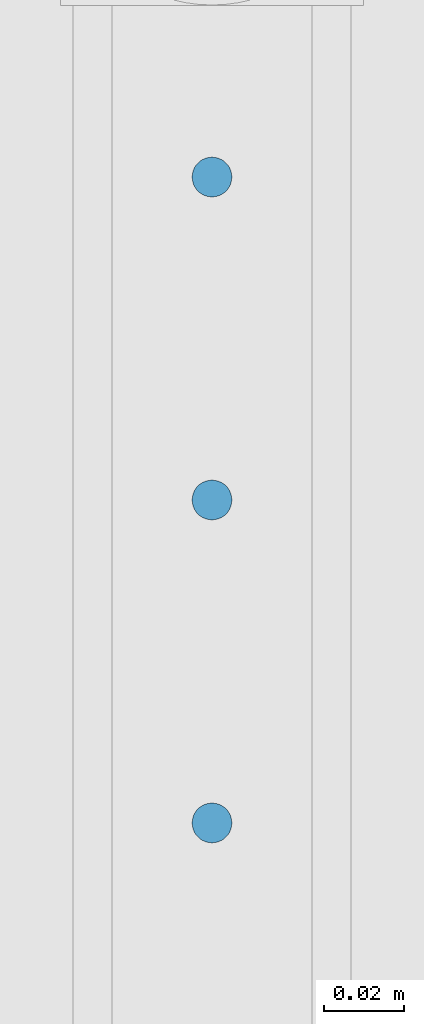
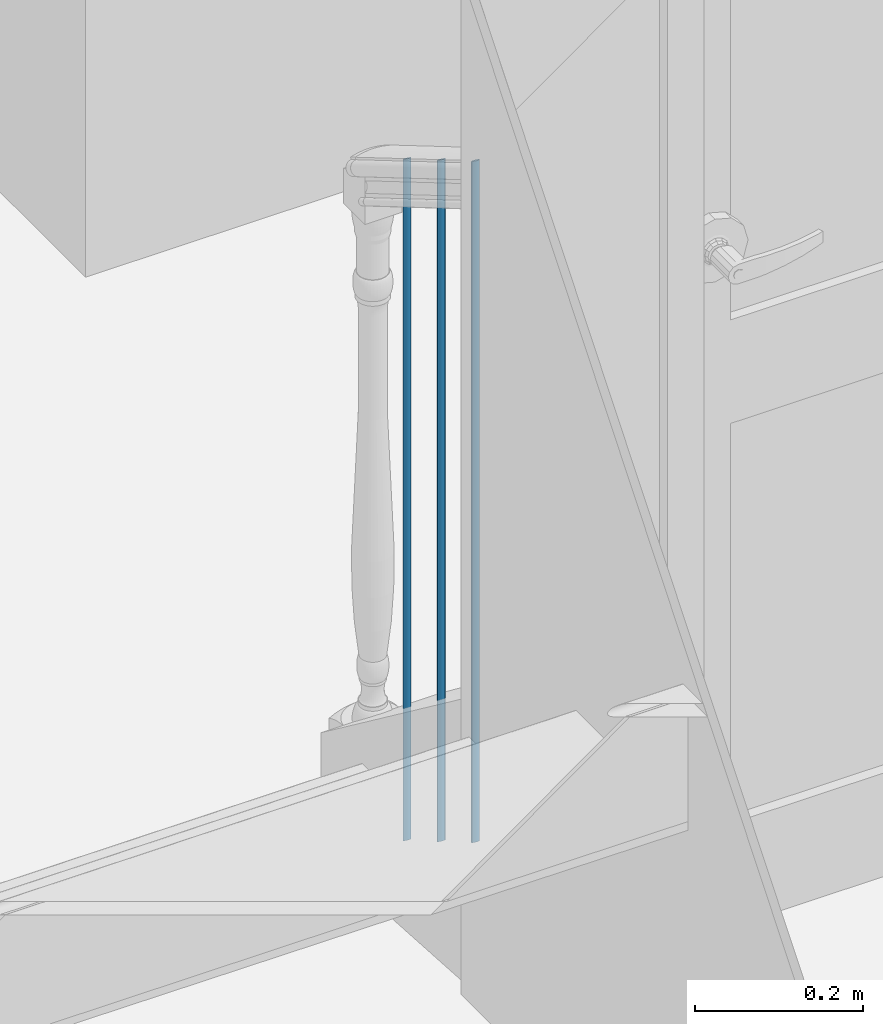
# One storey, part 9 of 24: 3 building element parts, 1 element without a shape of its own.
"""IFC2X3 building model written with IfcOpenShell, lengths in inches."""

from ifc_helpers import new_model, entity, si_unit, converted_unit, derived_unit, money_unit, direction, frame, origin_with_axes, place, context, subcontext, project, spatial, faceted_brep, material, type_object, element, aggregate, save


model = new_model("IFC2X3")

# Units and contexts
model_context = context("Model", 3, precision=0.000393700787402, world=origin_with_axes(), true_north=direction((0.0, 1.0)))
body_context = subcontext(model_context, "Body", "Model", "MODEL_VIEW")
ifc_project = project(units=[converted_unit("LENGTHUNIT", "INCH", entity("IfcPositiveLengthMeasure", 0.0254), si_unit("LENGTHUNIT", "METRE"), dimensions=[1, 0, 0, 0, 0, 0, 0]), converted_unit("AREAUNIT", "SQUARE_FOOT", entity("IfcPositiveLengthMeasure", 0.09290304), si_unit("AREAUNIT", "SQUARE_METRE"), dimensions=[2, 0, 0, 0, 0, 0, 0]), si_unit("PLANEANGLEUNIT", "RADIAN"), si_unit("SOLIDANGLEUNIT", "STERADIAN"), money_unit("USD"), converted_unit("TIMEUNIT", "Year", entity("IfcTimeMeasure", 31556926.0), si_unit("TIMEUNIT", "SECOND"), dimensions=[0, 0, 1, 0, 0, 0, 0]), si_unit("MASSUNIT", "GRAM", prefix="KILO"), si_unit("THERMODYNAMICTEMPERATUREUNIT", "DEGREE_CELSIUS"), si_unit("LUMINOUSINTENSITYUNIT", "LUMEN"), si_unit("ENERGYUNIT", "JOULE", prefix="MEGA"), derived_unit("THERMALCONDUCTANCEUNIT", [(si_unit("POWERUNIT", "WATT"), 1), (si_unit("LENGTHUNIT", "METRE"), -1), (si_unit("THERMODYNAMICTEMPERATUREUNIT", "KELVIN"), -1)]), derived_unit("SPECIFICHEATCAPACITYUNIT", [(si_unit("ENERGYUNIT", "JOULE"), 1), (si_unit("MASSUNIT", "GRAM", prefix="KILO"), -1), (si_unit("THERMODYNAMICTEMPERATUREUNIT", "KELVIN"), -1)]), derived_unit("MASSDENSITYUNIT", [(si_unit("MASSUNIT", "GRAM", prefix="KILO"), 1), (si_unit("VOLUMEUNIT", "CUBIC_METRE"), -1)])], contexts=[model_context])

# Site, building, storey
site_placement = place(None, origin_with_axes())
site = spatial("IfcSite", under=ifc_project, at=site_placement, Name="Site", CompositionType="ELEMENT")
building_placement = place(site_placement, origin_with_axes())
building = spatial("IfcBuilding", under=site, at=building_placement, Name="Building", CompositionType="ELEMENT")
storey_placement = place(building_placement, origin_with_axes())
storey = spatial("IfcBuildingStorey", under=building, at=storey_placement, Name="First Floor", CompositionType="ELEMENT", Elevation=0.0)

# Railing, building element parts
railing_type = type_object("IfcRailingType", Name="Railing Type", PredefinedType="NOTDEFINED")
railing_placement = place(storey_placement, frame((687.845851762, 140.777338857, -3.51027133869e-07), z_axis=(0.0, 0.0, 1.0), x_axis=(1.0, 0.0, 0.0)))
railing = element("IfcRailing", 1, at=railing_placement, inside=storey, type_object=railing_type, Name="RAILING - 003", PredefinedType="NOTDEFINED")
ifc_material = material(Name="Steel - Structural")
building_element_part_1_placement = place(railing_placement, origin_with_axes())
building_element_part_1 = element("IfcBuildingElementPart", 2, at=building_element_part_1_placement, material=ifc_material, Name="Steel - Structural", context=body_context, shape_type="Brep", body=[
    faceted_brep([(-1.96850393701, 7.37421516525, 5.76296703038), (-1.93432122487, 7.37720576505, 5.76120612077), (-1.93432122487, 7.37720576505, 44.6312853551), (-1.96850393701, 7.37421516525, 44.6330462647), (-2.00268664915, 7.37720576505, 5.76120612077), (-2.03583073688, 7.38608669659, 5.75597689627), (-2.06692913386, 7.40058811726, 5.74743824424), (-2.09503693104, 7.42026940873, 5.73584960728), (-2.11930008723, 7.44453256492, 5.72156310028), (-2.1389813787, 7.4726403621, 5.70501281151), (-2.15348279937, 7.50373875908, 5.68670161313), (-2.16236373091, 7.53688284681, 5.66718588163), (-2.16535433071, 7.57106555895, 5.64705859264), (-2.16236373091, 7.60524827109, 5.62693130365), (-2.15348279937, 7.63839235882, 5.60741557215), (-2.1389813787, 7.6694907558, 5.58910437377), (-2.11930008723, 7.69759855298, 5.572554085), (-2.09503693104, 7.72186170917, 5.558267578), (-2.06692913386, 7.74154300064, 5.54667894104), (-2.03583073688, 7.75604442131, 5.53814028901), (-2.00268664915, 7.76492535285, 5.53291106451), (-1.96850393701, 7.76791595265, 5.5311501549), (-1.93432122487, 7.76492535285, 5.53291106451), (-1.90117713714, 7.75604442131, 5.53814028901), (-1.87007874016, 7.74154300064, 5.54667894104), (-1.84197094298, 7.72186170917, 5.558267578), (-1.81770778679, 7.69759855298, 5.572554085), (-1.79802649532, 7.6694907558, 5.58910437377), (-1.78352507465, 7.63839235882, 5.60741557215), (-1.77464414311, 7.60524827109, 5.62693130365), (-1.77165354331, 7.57106555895, 5.64705859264), (-1.77464414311, 7.53688284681, 5.66718588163), (-1.78352507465, 7.50373875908, 5.68670161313), (-1.79802649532, 7.4726403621, 5.70501281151), (-1.81770778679, 7.44453256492, 5.72156310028), (-1.84197094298, 7.42026940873, 5.73584960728), (-1.87007874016, 7.40058811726, 5.74743824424), (-1.90117713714, 7.38608669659, 5.75597689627), (-1.90117713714, 7.38608669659, 44.6260561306), (-1.87007874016, 7.40058811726, 44.6175174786), (-1.84197094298, 7.42026940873, 44.6059288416), (-1.81770778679, 7.44453256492, 44.5916423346), (-1.79802649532, 7.4726403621, 44.5750920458), (-1.78352507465, 7.50373875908, 44.5567808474), (-1.77464414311, 7.53688284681, 44.5372651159), (-1.77165354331, 7.57106555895, 44.517137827), (-1.77464414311, 7.60524827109, 44.497010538), (-1.78352507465, 7.63839235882, 44.4774948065), (-1.79802649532, 7.6694907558, 44.4591836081), (-1.81770778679, 7.69759855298, 44.4426333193), (-1.84197094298, 7.72186170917, 44.4283468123), (-1.87007874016, 7.74154300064, 44.4167581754), (-1.90117713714, 7.75604442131, 44.4082195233), (-1.93432122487, 7.76492535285, 44.4029902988), (-1.96850393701, 7.76791595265, 44.4012293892), (-2.00268664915, 7.76492535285, 44.4029902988), (-2.03583073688, 7.75604442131, 44.4082195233), (-2.06692913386, 7.74154300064, 44.4167581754), (-2.09503693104, 7.72186170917, 44.4283468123), (-2.11930008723, 7.69759855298, 44.4426333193), (-2.1389813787, 7.6694907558, 44.4591836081), (-2.15348279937, 7.63839235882, 44.4774948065), (-2.16236373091, 7.60524827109, 44.497010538), (-2.16535433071, 7.57106555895, 44.517137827), (-2.16236373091, 7.53688284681, 44.5372651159), (-2.15348279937, 7.50373875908, 44.5567808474), (-2.1389813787, 7.4726403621, 44.5750920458), (-2.11930008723, 7.44453256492, 44.5916423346), (-2.09503693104, 7.42026940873, 44.6059288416), (-2.06692913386, 7.40058811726, 44.6175174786), (-2.03583073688, 7.38608669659, 44.6260561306), (-2.00268664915, 7.37720576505, 44.6312853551)], [[[0, 1, 2, 3]], [[0, 4, 5, 6, 7, 8, 9, 10, 11, 12, 13, 14, 15, 16, 17, 18, 19, 20, 21, 22, 23, 24, 25, 26, 27, 28, 29, 30, 31, 32, 33, 34, 35, 36, 37, 1]], [[1, 37, 38, 2]], [[3, 2, 38, 39, 40, 41, 42, 43, 44, 45, 46, 47, 48, 49, 50, 51, 52, 53, 54, 55, 56, 57, 58, 59, 60, 61, 62, 63, 64, 65, 66, 67, 68, 69, 70, 71]], [[4, 0, 3, 71]], [[5, 4, 71, 70]], [[6, 5, 70, 69]], [[7, 6, 69, 68]], [[8, 7, 68, 67]], [[9, 8, 67, 66]], [[10, 9, 66, 65]], [[11, 10, 65, 64]], [[12, 11, 64, 63]], [[13, 12, 63, 62]], [[14, 13, 62, 61]], [[15, 14, 61, 60]], [[16, 15, 60, 59]], [[17, 16, 59, 58]], [[18, 17, 58, 57]], [[19, 18, 57, 56]], [[20, 19, 56, 55]], [[21, 20, 55, 54]], [[22, 21, 54, 53]], [[23, 22, 53, 52]], [[24, 23, 52, 51]], [[25, 24, 51, 50]], [[26, 25, 50, 49]], [[27, 26, 49, 48]], [[28, 27, 48, 47]], [[29, 28, 47, 46]], [[30, 29, 46, 45]], [[31, 30, 45, 44]], [[32, 31, 44, 43]], [[33, 32, 43, 42]], [[34, 33, 42, 41]], [[35, 34, 41, 40]], [[36, 35, 40, 39]], [[37, 36, 39, 38]]]),
])
building_element_part_2_placement = place(railing_placement, origin_with_axes())
building_element_part_2 = element("IfcBuildingElementPart", 3, at=building_element_part_2_placement, material=ifc_material, Name="Steel - Structural", context=body_context, shape_type="Brep", body=[
    faceted_brep([(-1.96850393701, 10.5710655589, 3.88061400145), (-1.93432122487, 10.5740561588, 3.87885309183), (-1.93432122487, 10.5740561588, 42.7489323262), (-1.96850393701, 10.5710655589, 42.7506932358), (-2.00268664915, 10.5740561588, 3.87885309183), (-2.03583073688, 10.5829370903, 3.87362386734), (-2.06692913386, 10.597438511, 3.8650852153), (-2.09503693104, 10.6171198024, 3.85349657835), (-2.11930008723, 10.6413829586, 3.83921007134), (-2.1389813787, 10.6694907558, 3.82265978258), (-2.15348279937, 10.7005891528, 3.80434858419), (-2.16236373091, 10.7337332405, 3.7848328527), (-2.16535433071, 10.7679159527, 3.76470556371), (-2.16236373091, 10.8020986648, 3.74457827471), (-2.15348279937, 10.8352427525, 3.72506254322), (-2.1389813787, 10.8663411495, 3.70675134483), (-2.11930008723, 10.8944489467, 3.69020105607), (-2.09503693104, 10.9187121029, 3.67591454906), (-2.06692913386, 10.9383933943, 3.66432591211), (-2.03583073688, 10.952894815, 3.65578726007), (-2.00268664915, 10.9617757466, 3.65055803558), (-1.96850393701, 10.9647663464, 3.64879712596), (-1.93432122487, 10.9617757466, 3.65055803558), (-1.90117713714, 10.952894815, 3.65578726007), (-1.87007874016, 10.9383933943, 3.66432591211), (-1.84197094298, 10.9187121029, 3.67591454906), (-1.81770778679, 10.8944489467, 3.69020105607), (-1.79802649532, 10.8663411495, 3.70675134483), (-1.78352507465, 10.8352427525, 3.72506254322), (-1.77464414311, 10.8020986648, 3.74457827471), (-1.77165354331, 10.7679159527, 3.76470556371), (-1.77464414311, 10.7337332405, 3.7848328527), (-1.78352507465, 10.7005891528, 3.80434858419), (-1.79802649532, 10.6694907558, 3.82265978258), (-1.81770778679, 10.6413829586, 3.83921007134), (-1.84197094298, 10.6171198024, 3.85349657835), (-1.87007874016, 10.597438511, 3.8650852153), (-1.90117713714, 10.5829370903, 3.87362386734), (-1.90117713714, 10.5829370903, 42.7437031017), (-1.87007874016, 10.597438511, 42.7351644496), (-1.84197094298, 10.6171198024, 42.7235758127), (-1.81770778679, 10.6413829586, 42.7092893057), (-1.79802649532, 10.6694907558, 42.6927390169), (-1.78352507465, 10.7005891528, 42.6744278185), (-1.77464414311, 10.7337332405, 42.654912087), (-1.77165354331, 10.7679159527, 42.634784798), (-1.77464414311, 10.8020986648, 42.614657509), (-1.78352507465, 10.8352427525, 42.5951417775), (-1.79802649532, 10.8663411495, 42.5768305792), (-1.81770778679, 10.8944489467, 42.5602802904), (-1.84197094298, 10.9187121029, 42.5459937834), (-1.87007874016, 10.9383933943, 42.5344051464), (-1.90117713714, 10.952894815, 42.5258664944), (-1.93432122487, 10.9617757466, 42.5206372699), (-1.96850393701, 10.9647663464, 42.5188763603), (-2.00268664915, 10.9617757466, 42.5206372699), (-2.03583073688, 10.952894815, 42.5258664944), (-2.06692913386, 10.9383933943, 42.5344051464), (-2.09503693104, 10.9187121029, 42.5459937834), (-2.11930008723, 10.8944489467, 42.5602802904), (-2.1389813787, 10.8663411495, 42.5768305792), (-2.15348279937, 10.8352427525, 42.5951417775), (-2.16236373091, 10.8020986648, 42.614657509), (-2.16535433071, 10.7679159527, 42.634784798), (-2.16236373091, 10.7337332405, 42.654912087), (-2.15348279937, 10.7005891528, 42.6744278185), (-2.1389813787, 10.6694907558, 42.6927390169), (-2.11930008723, 10.6413829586, 42.7092893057), (-2.09503693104, 10.6171198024, 42.7235758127), (-2.06692913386, 10.597438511, 42.7351644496), (-2.03583073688, 10.5829370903, 42.7437031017), (-2.00268664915, 10.5740561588, 42.7489323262)], [[[0, 1, 2, 3]], [[0, 4, 5, 6, 7, 8, 9, 10, 11, 12, 13, 14, 15, 16, 17, 18, 19, 20, 21, 22, 23, 24, 25, 26, 27, 28, 29, 30, 31, 32, 33, 34, 35, 36, 37, 1]], [[1, 37, 38, 2]], [[3, 2, 38, 39, 40, 41, 42, 43, 44, 45, 46, 47, 48, 49, 50, 51, 52, 53, 54, 55, 56, 57, 58, 59, 60, 61, 62, 63, 64, 65, 66, 67, 68, 69, 70, 71]], [[4, 0, 3, 71]], [[5, 4, 71, 70]], [[6, 5, 70, 69]], [[7, 6, 69, 68]], [[8, 7, 68, 67]], [[9, 8, 67, 66]], [[10, 9, 66, 65]], [[11, 10, 65, 64]], [[12, 11, 64, 63]], [[13, 12, 63, 62]], [[14, 13, 62, 61]], [[15, 14, 61, 60]], [[16, 15, 60, 59]], [[17, 16, 59, 58]], [[18, 17, 58, 57]], [[19, 18, 57, 56]], [[20, 19, 56, 55]], [[21, 20, 55, 54]], [[22, 21, 54, 53]], [[23, 22, 53, 52]], [[24, 23, 52, 51]], [[25, 24, 51, 50]], [[26, 25, 50, 49]], [[27, 26, 49, 48]], [[28, 27, 48, 47]], [[29, 28, 47, 46]], [[30, 29, 46, 45]], [[31, 30, 45, 44]], [[32, 31, 44, 43]], [[33, 32, 43, 42]], [[34, 33, 42, 41]], [[35, 34, 41, 40]], [[36, 35, 40, 39]], [[37, 36, 39, 38]]]),
])
building_element_part_3_placement = place(railing_placement, origin_with_axes())
building_element_part_3 = element("IfcBuildingElementPart", 4, at=building_element_part_3_placement, material=ifc_material, Name="Steel - Structural", context=body_context, shape_type="Brep", body=[
    faceted_brep([(-1.96850393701, 13.7679159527, 1.99826097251), (-1.93432122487, 13.7709065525, 1.9965000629), (-1.93432122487, 13.7709065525, 40.8665792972), (-1.96850393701, 13.7679159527, 40.8683402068), (-2.00268664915, 13.7709065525, 1.9965000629), (-2.03583073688, 13.779787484, 1.9912708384), (-2.06692913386, 13.7942889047, 1.98273218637), (-2.09503693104, 13.8139701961, 1.97114354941), (-2.11930008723, 13.8382333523, 1.95685704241), (-2.1389813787, 13.8663411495, 1.94030675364), (-2.15348279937, 13.8974395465, 1.92199555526), (-2.16236373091, 13.9305836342, 1.90247982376), (-2.16535433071, 13.9647663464, 1.88235253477), (-2.16236373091, 13.9989490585, 1.86222524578), (-2.15348279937, 14.0320931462, 1.84270951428), (-2.1389813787, 14.0631915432, 1.8243983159), (-2.11930008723, 14.0912993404, 1.80784802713), (-2.09503693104, 14.1155624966, 1.79356152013), (-2.06692913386, 14.135243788, 1.78197288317), (-2.03583073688, 14.1497452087, 1.77343423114), (-2.00268664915, 14.1586261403, 1.76820500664), (-1.96850393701, 14.1616167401, 1.76644409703), (-1.93432122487, 14.1586261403, 1.76820500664), (-1.90117713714, 14.1497452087, 1.77343423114), (-1.87007874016, 14.135243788, 1.78197288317), (-1.84197094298, 14.1155624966, 1.79356152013), (-1.81770778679, 14.0912993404, 1.80784802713), (-1.79802649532, 14.0631915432, 1.8243983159), (-1.78352507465, 14.0320931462, 1.84270951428), (-1.77464414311, 13.9989490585, 1.86222524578), (-1.77165354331, 13.9647663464, 1.88235253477), (-1.77464414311, 13.9305836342, 1.90247982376), (-1.78352507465, 13.8974395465, 1.92199555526), (-1.79802649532, 13.8663411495, 1.94030675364), (-1.81770778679, 13.8382333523, 1.95685704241), (-1.84197094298, 13.8139701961, 1.97114354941), (-1.87007874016, 13.7942889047, 1.98273218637), (-1.90117713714, 13.779787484, 1.9912708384), (-1.90117713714, 13.779787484, 40.8613500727), (-1.87007874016, 13.7942889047, 40.8528114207), (-1.84197094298, 13.8139701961, 40.8412227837), (-1.81770778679, 13.8382333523, 40.8269362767), (-1.79802649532, 13.8663411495, 40.810385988), (-1.78352507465, 13.8974395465, 40.7920747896), (-1.77464414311, 13.9305836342, 40.7725590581), (-1.77165354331, 13.9647663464, 40.7524317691), (-1.77464414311, 13.9989490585, 40.7323044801), (-1.78352507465, 14.0320931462, 40.7127887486), (-1.79802649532, 14.0631915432, 40.6944775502), (-1.81770778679, 14.0912993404, 40.6779272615), (-1.84197094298, 14.1155624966, 40.6636407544), (-1.87007874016, 14.135243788, 40.6520521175), (-1.90117713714, 14.1497452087, 40.6435134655), (-1.93432122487, 14.1586261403, 40.638284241), (-1.96850393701, 14.1616167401, 40.6365233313), (-2.00268664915, 14.1586261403, 40.638284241), (-2.03583073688, 14.1497452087, 40.6435134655), (-2.06692913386, 14.135243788, 40.6520521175), (-2.09503693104, 14.1155624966, 40.6636407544), (-2.11930008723, 14.0912993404, 40.6779272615), (-2.1389813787, 14.0631915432, 40.6944775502), (-2.15348279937, 14.0320931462, 40.7127887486), (-2.16236373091, 13.9989490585, 40.7323044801), (-2.16535433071, 13.9647663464, 40.7524317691), (-2.16236373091, 13.9305836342, 40.7725590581), (-2.15348279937, 13.8974395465, 40.7920747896), (-2.1389813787, 13.8663411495, 40.810385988), (-2.11930008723, 13.8382333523, 40.8269362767), (-2.09503693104, 13.8139701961, 40.8412227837), (-2.06692913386, 13.7942889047, 40.8528114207), (-2.03583073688, 13.779787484, 40.8613500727), (-2.00268664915, 13.7709065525, 40.8665792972)], [[[0, 1, 2, 3]], [[0, 4, 5, 6, 7, 8, 9, 10, 11, 12, 13, 14, 15, 16, 17, 18, 19, 20, 21, 22, 23, 24, 25, 26, 27, 28, 29, 30, 31, 32, 33, 34, 35, 36, 37, 1]], [[1, 37, 38, 2]], [[3, 2, 38, 39, 40, 41, 42, 43, 44, 45, 46, 47, 48, 49, 50, 51, 52, 53, 54, 55, 56, 57, 58, 59, 60, 61, 62, 63, 64, 65, 66, 67, 68, 69, 70, 71]], [[4, 0, 3, 71]], [[5, 4, 71, 70]], [[6, 5, 70, 69]], [[7, 6, 69, 68]], [[8, 7, 68, 67]], [[9, 8, 67, 66]], [[10, 9, 66, 65]], [[11, 10, 65, 64]], [[12, 11, 64, 63]], [[13, 12, 63, 62]], [[14, 13, 62, 61]], [[15, 14, 61, 60]], [[16, 15, 60, 59]], [[17, 16, 59, 58]], [[18, 17, 58, 57]], [[19, 18, 57, 56]], [[20, 19, 56, 55]], [[21, 20, 55, 54]], [[22, 21, 54, 53]], [[23, 22, 53, 52]], [[24, 23, 52, 51]], [[25, 24, 51, 50]], [[26, 25, 50, 49]], [[27, 26, 49, 48]], [[28, 27, 48, 47]], [[29, 28, 47, 46]], [[30, 29, 46, 45]], [[31, 30, 45, 44]], [[32, 31, 44, 43]], [[33, 32, 43, 42]], [[34, 33, 42, 41]], [[35, 34, 41, 40]], [[36, 35, 40, 39]], [[37, 36, 39, 38]]]),
])
aggregate(railing, [building_element_part_1, building_element_part_2, building_element_part_3])

save(model, "model.ifc")
